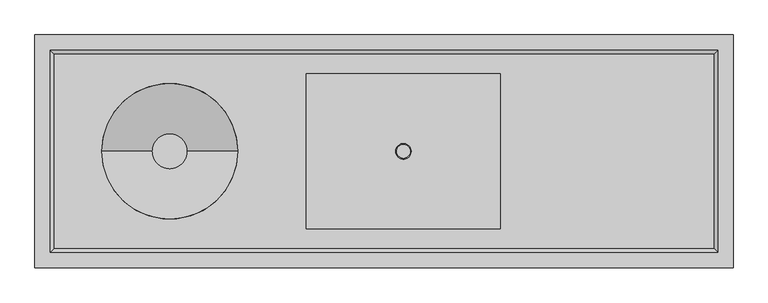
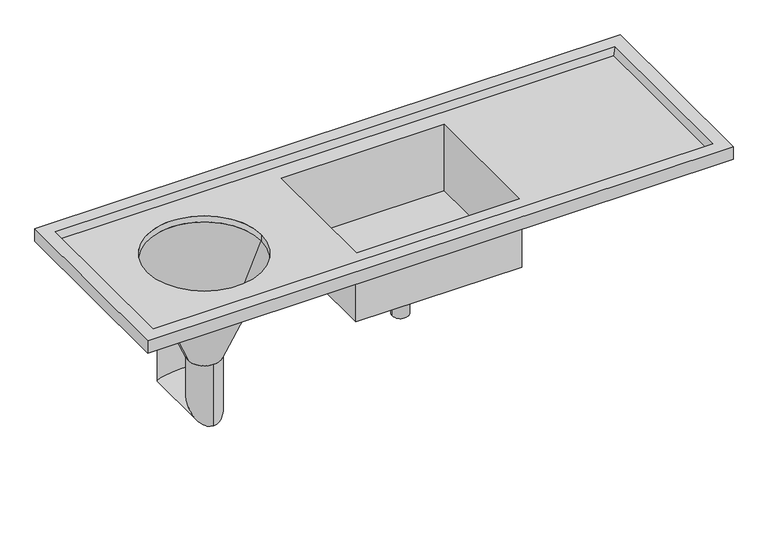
"""IFC4 building model written with IfcOpenShell, lengths in millimetres: flow terminal geometry, BIMHealth-Slop_Hopper-LOD2A-v1 : BIMHealth-Slop_Hopper-LOD2A-v1."""

from ifc_helpers import new_model, si_unit, frame, origin, place, context, project, spatial, polyline, circle_curve, ellipse_curve, source, transform, mapped, element, save
from ifc_brep_helpers import plane_surface, cylinder_surface, revolved_surface, advanced_brep


def flow_terminal_d119b02e(model_context):
    return source(origin(), model_context, "Body", "AdvancedBrep", [
        advanced_brep(
        [(167.5, -300.0, 860.0), (527.5, -300.0, 860.0), (522.5, -300.0, 860.0), (172.5, -300.0, 860.0), (297.5, -300.0, 550.0), (397.5, -300.0, 550.0), (302.5, -300.0, 555.0), (392.5, -300.0, 555.0)],
        [
            (0, 1, circle_curve(frame((347.5, -300.0, 860.0), z_axis=(0.0, 0.0, 1.0), x_axis=(-1.0, 0.0, 0.0)), 180.0)),
            (1, 0, circle_curve(frame((347.5, -300.0, 860.0), z_axis=(0.0, 0.0, 1.0), x_axis=(1.0, 0.0, 0.0)), 180.0)),
            (2, 3, circle_curve(frame((347.5, -300.0, 860.0), z_axis=(0.0, 0.0, -1.0), x_axis=(-1.0, 0.0, 0.0)), 175.0)),
            (3, 2, circle_curve(frame((347.5, -300.0, 860.0), z_axis=(0.0, 0.0, -1.0), x_axis=(1.0, 0.0, 0.0)), 175.0)),
            (4, 5, circle_curve(frame((347.5, -300.0, 550.0), z_axis=(0.0, 0.0, -1.0), x_axis=(1.0, 0.0, 0.0)), 50.0)),
            (5, 4, circle_curve(frame((347.5, -300.0, 550.0), z_axis=(0.0, 0.0, -1.0), x_axis=(-1.0, 0.0, 0.0)), 50.0)),
            (0, 4),
            (5, 1),
            (6, 7, circle_curve(frame((347.5, -300.0, 555.0), z_axis=(0.0, 0.0, 1.0), x_axis=(-1.0, 0.0, 0.0)), 45.0)),
            (7, 6, circle_curve(frame((347.5, -300.0, 555.0), z_axis=(0.0, 0.0, 1.0), x_axis=(1.0, 0.0, 0.0)), 45.0)),
            (6, 3),
            (2, 7),
        ],
        [
            plane_surface(frame((347.5, -300.0, 860.0), z_axis=(0.0, 0.0, 1.0), x_axis=(0.0, -1.0, 0.0))),
            plane_surface(frame((347.5, -300.0, 550.0), z_axis=(0.0, 0.0, -1.0), x_axis=(0.0, -1.0, 0.0))),
            revolved_surface(polyline([(397.499999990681, -300.0, 550.0), (527.5, -300.0, 860.0)]), (347.5, -300.0, 430.7692308), (0.0, 0.0, 1.0)),
            revolved_surface(polyline([(297.500000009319, -300.0, 550.0), (167.5, -300.0, 860.0)]), (347.5, -300.0, 430.7692308), (0.0, 0.0, 1.0)),
            plane_surface(frame((347.5, -300.0, 555.0), z_axis=(0.0, 0.0, 1.0), x_axis=(0.0, -1.0, 0.0))),
            revolved_surface(polyline([(172.5, -300.0, 860.0), (302.49999999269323, -300.0, 555.0)]), (347.5, -300.0, 449.4230769), (0.0, 0.0, 1.0)),
            revolved_surface(polyline([(522.5, -300.0, 860.0), (392.50000000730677, -300.0, 555.0)]), (347.5, -300.0, 449.4230769), (0.0, 0.0, 1.0)),
        ],
        [
            (0, [[1, 2], [3, 4]]),
            (1, [[5, 6]]),
            (2, [[-1, 7, -6, 8]]),
            (3, [[-2, -8, -5, -7]]),
            (4, [[9, 10]]),
            (5, [[-9, 11, -3, 12]]),
            (6, [[-10, -12, -4, -11]]),
        ],
    ),
        advanced_brep(
        [(925.0, -300.0, 585.0), (975.0, -300.0, 585.0), (970.0, -300.0, 585.0), (930.0, -300.0, 585.0), (967.5, -300.0, 585.0), (932.5, -300.0, 585.0), (927.5, -300.0, 582.5), (972.5, -300.0, 582.5), (925.0, -300.0, 582.5), (975.0, -300.0, 582.5), (925.0, -300.0, 475.0), (975.0, -300.0, 475.0), (927.5, -300.0, 475.0), (972.5, -300.0, 475.0), (930.0, -300.0, 660.0), (970.0, -300.0, 660.0), (932.5, -300.0, 660.0), (967.5, -300.0, 660.0)],
        [
            (0, 1, circle_curve(frame((950.0, -300.0, 585.0), z_axis=(0.0, 0.0, 1.0), x_axis=(1.0, 0.0, 0.0)), 25.0)),
            (1, 0, circle_curve(frame((950.0, -300.0, 585.0), z_axis=(0.0, 0.0, 1.0), x_axis=(1.0, 0.0, 0.0)), 25.0)),
            (2, 3, circle_curve(frame((950.0, -300.0, 585.0), z_axis=(0.0, 0.0, -1.0), x_axis=(1.0, 0.0, 0.0)), 20.0)),
            (3, 2, circle_curve(frame((950.0, -300.0, 585.0), z_axis=(0.0, 0.0, -1.0), x_axis=(1.0, 0.0, 0.0)), 20.0)),
            (4, 5, circle_curve(frame((950.0, -300.0, 585.0), z_axis=(0.0, 0.0, 1.0), x_axis=(1.0, 0.0, 0.0)), 17.5)),
            (5, 4, circle_curve(frame((950.0, -300.0, 585.0), z_axis=(0.0, 0.0, 1.0), x_axis=(1.0, 0.0, 0.0)), 17.5)),
            (6, 7, circle_curve(frame((950.0, -300.0, 582.5), z_axis=(0.0, 0.0, -1.0), x_axis=(1.0, 0.0, 0.0)), 22.5)),
            (7, 6, circle_curve(frame((950.0, -300.0, 582.5), z_axis=(0.0, 0.0, -1.0), x_axis=(1.0, 0.0, 0.0)), 22.5)),
            (0, 8),
            (8, 9, circle_curve(frame((950.0, -300.0, 582.5), z_axis=(0.0, 0.0, 1.0), x_axis=(1.0, 0.0, 0.0)), 25.0)),
            (9, 1),
            (9, 8, circle_curve(frame((950.0, -300.0, 582.5), z_axis=(0.0, 0.0, 1.0), x_axis=(1.0, 0.0, 0.0)), 25.0)),
            (10, 11, circle_curve(frame((950.0, -300.0, 475.0), z_axis=(0.0, 0.0, -1.0), x_axis=(1.0, 0.0, 0.0)), 25.0)),
            (11, 10, circle_curve(frame((950.0, -300.0, 475.0), z_axis=(0.0, 0.0, -1.0), x_axis=(1.0, 0.0, 0.0)), 25.0)),
            (12, 13, circle_curve(frame((950.0, -300.0, 475.0), z_axis=(0.0, 0.0, 1.0), x_axis=(1.0, 0.0, 0.0)), 22.5)),
            (13, 12, circle_curve(frame((950.0, -300.0, 475.0), z_axis=(0.0, 0.0, 1.0), x_axis=(1.0, 0.0, 0.0)), 22.5)),
            (11, 9),
            (8, 10),
            (13, 7),
            (6, 12),
            (14, 15, circle_curve(frame((950.0, -300.0, 660.0), z_axis=(0.0, 0.0, 1.0), x_axis=(1.0, 0.0, 0.0)), 20.0)),
            (15, 14, circle_curve(frame((950.0, -300.0, 660.0), z_axis=(0.0, 0.0, 1.0), x_axis=(1.0, 0.0, 0.0)), 20.0)),
            (16, 17, circle_curve(frame((950.0, -300.0, 660.0), z_axis=(0.0, 0.0, -1.0), x_axis=(1.0, 0.0, 0.0)), 17.5)),
            (17, 16, circle_curve(frame((950.0, -300.0, 660.0), z_axis=(0.0, 0.0, -1.0), x_axis=(1.0, 0.0, 0.0)), 17.5)),
            (14, 3),
            (2, 15),
            (16, 5),
            (4, 17),
        ],
        [
            plane_surface(frame((975.0, -300.0, 585.0), z_axis=(0.0, 0.0, 1.0), x_axis=(0.0, 1.0, 0.0))),
            plane_surface(frame((975.0, -300.0, 582.5), z_axis=(0.0, 0.0, -1.0), x_axis=(0.0, -1.0, 0.0))),
            cylinder_surface(frame((950.0, -300.0, 582.5), z_axis=(0.0, 0.0, 1.0), x_axis=(1.0, 0.0, 0.0)), 25.0),
            plane_surface(frame((975.0, -300.0, 475.0), z_axis=(0.0, 0.0, -1.0), x_axis=(0.0, -1.0, 0.0))),
            cylinder_surface(frame((950.0, -300.0, 475.0), z_axis=(0.0, 0.0, 1.0), x_axis=(1.0, 0.0, 0.0)), 25.0),
            revolved_surface(polyline([(972.5, -300.0, 475.0), (972.5, -300.0, 582.5)]), (950.0, -300.0, 0.0), (0.0, 0.0, -1.0)),
            plane_surface(frame((970.0, -300.0, 660.0), z_axis=(0.0, 0.0, 1.0), x_axis=(0.0, 1.0, 0.0))),
            cylinder_surface(frame((950.0, -300.0, 585.0), z_axis=(0.0, 0.0, 1.0), x_axis=(1.0, 0.0, 0.0)), 20.0),
            revolved_surface(polyline([(967.5, -300.0, 585.0), (967.5, -300.0, 660.0)]), (950.0, -300.0, 0.0), (0.0, 0.0, -1.0)),
        ],
        [
            (0, [[1, 2], [3, 4]]),
            (0, [[5, 6]]),
            (1, [[7, 8]]),
            (2, [[-1, 9, 10, 11]]),
            (2, [[-2, -11, 12, -9]]),
            (3, [[13, 14], [15, 16]]),
            (4, [[-14, 17, -10, 18]]),
            (4, [[-13, -18, -12, -17]]),
            (5, [[-16, 19, -7, 20]]),
            (5, [[-15, -20, -8, -19]]),
            (6, [[21, 22], [23, 24]]),
            (7, [[-21, 25, -3, 26]]),
            (7, [[-22, -26, -4, -25]]),
            (8, [[-23, 27, -5, 28]]),
            (8, [[-24, -28, -6, -27]]),
        ],
    ),
        advanced_brep(
        [(347.5, -350.0, 550.0), (347.5, -250.0, 550.0), (347.5, -350.0, 350.0), (347.5, -250.0, 450.0), (347.5, -100.0, 350.0), (347.5, -200.0, 450.0), (347.5, -100.0, 450.0), (347.5, -200.0, 550.0), (347.5, 0.0, 450.0), (347.5, 0.0, 550.0)],
        [
            (0, 1, circle_curve(frame((347.5, -300.0, 550.0), z_axis=(0.0, 0.0, 1.0), x_axis=(0.0, 1.0, 0.0)), 50.0)),
            (1, 0, circle_curve(frame((347.5, -300.0, 550.0), z_axis=(0.0, 0.0, 1.0), x_axis=(0.0, 1.0, 0.0)), 50.0)),
            (0, 2),
            (2, 3, ellipse_curve(frame((347.5, -300.0, 400.0), z_axis=(0.0, -0.7071067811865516, 0.7071067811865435), x_axis=(0.0, 0.7071067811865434, 0.7071067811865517)), 70.7106781, 50.0)),
            (3, 1),
            (3, 2, ellipse_curve(frame((347.5, -300.0, 400.0), z_axis=(0.0, -0.7071067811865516, 0.7071067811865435), x_axis=(0.0, 0.7071067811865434, 0.7071067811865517)), 70.7106781, 50.0)),
            (2, 4),
            (4, 5, ellipse_curve(frame((347.5, -150.0, 400.0), z_axis=(0.0, -0.7071067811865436, -0.7071067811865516), x_axis=(0.0, -0.7071067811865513, 0.7071067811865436)), 70.7106781, 50.0)),
            (5, 3),
            (5, 4, ellipse_curve(frame((347.5, -150.0, 400.0), z_axis=(0.0, -0.7071067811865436, -0.7071067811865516), x_axis=(0.0, -0.7071067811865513, 0.7071067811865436)), 70.7106781, 50.0)),
            (4, 6),
            (6, 7, ellipse_curve(frame((347.5, -150.0, 500.0), z_axis=(0.0, -0.7071067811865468, -0.7071067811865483), x_axis=(0.0, 0.7071067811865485, -0.7071067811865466)), 70.7106781, 50.0)),
            (7, 5),
            (7, 6, ellipse_curve(frame((347.5, -150.0, 500.0), z_axis=(0.0, -0.7071067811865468, -0.7071067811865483), x_axis=(0.0, 0.7071067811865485, -0.7071067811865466)), 70.7106781, 50.0)),
            (8, 9, circle_curve(frame((347.5, 0.0, 500.0), z_axis=(0.0, 1.0, 0.0), x_axis=(0.0, 0.0, 1.0)), 50.0)),
            (9, 8, circle_curve(frame((347.5, 0.0, 500.0), z_axis=(0.0, 1.0, 0.0), x_axis=(0.0, 0.0, 1.0)), 50.0)),
            (6, 8),
            (9, 7),
        ],
        [
            plane_surface(frame((347.5, -300.0, 550.0), z_axis=(0.0, 0.0, 1.0), x_axis=(1.0, 0.0, 0.0))),
            cylinder_surface(frame((347.5, -300.0, 550.0), z_axis=(0.0, 0.0, 1.0), x_axis=(0.0, 1.0, 0.0)), 50.0),
            cylinder_surface(frame((347.5, -300.0, 400.0), z_axis=(0.0, -1.0, 0.0), x_axis=(0.0, 0.0, 1.0)), 50.0),
            cylinder_surface(frame((347.5, -150.0, 400.0), z_axis=(0.0, 0.0, -1.0), x_axis=(0.0, -1.0, 0.0)), 50.0),
            plane_surface(frame((347.5, 0.0, 500.0), z_axis=(0.0, 1.0, 0.0), x_axis=(1.0, 0.0, 0.0))),
            cylinder_surface(frame((347.5, -150.0, 500.0), z_axis=(0.0, -1.0, 0.0), x_axis=(0.0, 0.0, 1.0)), 50.0),
        ],
        [
            (0, [[1, 2]]),
            (1, [[-1, 3, 4, 5]]),
            (1, [[-2, -5, 6, -3]]),
            (2, [[-4, 7, 8, 9]]),
            (2, [[-6, -9, 10, -7]]),
            (3, [[-8, 11, 12, 13]]),
            (3, [[-10, -13, 14, -11]]),
            (4, [[15, 16]]),
            (5, [[-12, 17, -16, 18]]),
            (5, [[-14, -18, -15, -17]]),
        ],
    ),
        advanced_brep(
        [(1800.0, 0.0, 900.0), (0.0, 0.0, 900.0), (0.0, -600.0, 900.0), (1800.0, -600.0, 900.0), (40.0, -40.0, 900.0), (1760.0, -40.0, 900.0), (1760.0, -560.0, 900.0), (40.0, -560.0, 900.0), (1800.0, 0.0, 860.0), (1800.0, -600.0, 860.0), (0.0, -600.0, 860.0), (0.0, 0.0, 860.0), (1205.0, -95.0, 860.0), (695.0, -95.0, 860.0), (695.0, -505.0, 860.0), (1205.0, -505.0, 860.0), (172.5, -300.0, 860.0), (522.5, -300.0, 860.0), (1750.0, -50.0, 880.0), (50.0, -50.0, 880.0), (50.0, -550.0, 880.0), (1750.0, -550.0, 880.0), (1200.0, -100.0, 880.0), (1200.0, -500.0, 880.0), (700.0, -500.0, 880.0), (700.0, -100.0, 880.0), (172.5, -300.0, 880.0), (522.5, -300.0, 880.0), (1200.0, -100.0, 665.0), (1200.0, -500.0, 665.0), (700.0, -500.0, 665.0), (700.0, -100.0, 665.0), (1205.0, -95.0, 660.0), (695.0, -95.0, 660.0), (695.0, -505.0, 660.0), (1205.0, -505.0, 660.0), (930.0, -300.0, 665.0), (970.0, -300.0, 665.0), (930.0, -300.0, 660.0), (970.0, -300.0, 660.0)],
        [
            (0, 1),
            (1, 2),
            (2, 3),
            (3, 0),
            (4, 5),
            (5, 6),
            (6, 7),
            (7, 4),
            (8, 9),
            (9, 10),
            (10, 11),
            (11, 8),
            (12, 13),
            (13, 14),
            (14, 15),
            (15, 12),
            (16, 17, circle_curve(frame((347.5, -300.0, 860.0), z_axis=(0.0, 0.0, 1.0), x_axis=(1.0, 0.0, 0.0)), 175.0)),
            (17, 16, circle_curve(frame((347.5, -300.0, 860.0), z_axis=(0.0, 0.0, 1.0), x_axis=(1.0, 0.0, 0.0)), 175.0)),
            (0, 8),
            (11, 1),
            (10, 2),
            (9, 3),
            (18, 19),
            (19, 20),
            (20, 21),
            (21, 18),
            (22, 23),
            (23, 24),
            (24, 25),
            (25, 22),
            (26, 27, circle_curve(frame((347.5, -300.0, 880.0), z_axis=(0.0, 0.0, -1.0), x_axis=(1.0, 0.0, 0.0)), 175.0)),
            (27, 26, circle_curve(frame((347.5, -300.0, 880.0), z_axis=(0.0, 0.0, -1.0), x_axis=(1.0, 0.0, 0.0)), 175.0)),
            (18, 5),
            (4, 19),
            (7, 20),
            (6, 21),
            (22, 28),
            (28, 29),
            (29, 23),
            (29, 30),
            (30, 24),
            (30, 31),
            (31, 25),
            (31, 28),
            (32, 33),
            (33, 13),
            (12, 32),
            (33, 34),
            (34, 14),
            (34, 35),
            (35, 15),
            (35, 32),
            (36, 37, circle_curve(frame((950.0, -300.0, 665.0), z_axis=(0.0, 0.0, -1.0), x_axis=(1.0, 0.0, 0.0)), 20.0)),
            (37, 36, circle_curve(frame((950.0, -300.0, 665.0), z_axis=(0.0, 0.0, -1.0), x_axis=(1.0, 0.0, 0.0)), 20.0)),
            (38, 39, circle_curve(frame((950.0, -300.0, 660.0), z_axis=(0.0, 0.0, 1.0), x_axis=(1.0, 0.0, 0.0)), 20.0)),
            (39, 38, circle_curve(frame((950.0, -300.0, 660.0), z_axis=(0.0, 0.0, 1.0), x_axis=(1.0, 0.0, 0.0)), 20.0)),
            (36, 38),
            (39, 37),
            (17, 27),
            (26, 16),
        ],
        [
            plane_surface(frame((0.0, 0.0, 900.0), z_axis=(0.0, 0.0, 1.0), x_axis=(-1.0, 0.0, 0.0))),
            plane_surface(frame((0.0, 0.0, 860.0), z_axis=(0.0, 0.0, -1.0), x_axis=(1.0, 0.0, 0.0))),
            plane_surface(frame((1800.0, 0.0, 900.0), z_axis=(0.0, 1.0, 0.0), x_axis=(0.0, 0.0, -1.0))),
            plane_surface(frame((0.0, 0.0, 900.0), z_axis=(-1.0, 0.0, 0.0), x_axis=(0.0, 0.0, -1.0))),
            plane_surface(frame((0.0, -600.0, 900.0), z_axis=(0.0, -1.0, 0.0), x_axis=(0.0, 0.0, -1.0))),
            plane_surface(frame((1800.0, -600.0, 900.0), z_axis=(1.0, 0.0, 0.0), x_axis=(0.0, 0.0, -1.0))),
            plane_surface(frame((900.0, -300.0, 880.0), z_axis=(0.0, 0.0, 1.0), x_axis=(-1.0, 0.0, 0.0))),
            plane_surface(frame((900.0, -50.0, 880.0), z_axis=(0.0, -0.8944271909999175, 0.4472135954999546), x_axis=(-1.0, 0.0, 0.0))),
            plane_surface(frame((50.0, -300.0, 880.0), z_axis=(0.8944271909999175, 0.0, 0.4472135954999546), x_axis=(0.0, -1.0, 0.0))),
            plane_surface(frame((900.0, -550.0, 880.0), z_axis=(0.0, 0.8944271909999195, 0.44721359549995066), x_axis=(1.0, 0.0, 0.0))),
            plane_surface(frame((1750.0, -300.0, 880.0), z_axis=(-0.8944271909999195, 0.0, 0.44721359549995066), x_axis=(0.0, 1.0, 0.0))),
            plane_surface(frame((1200.0, -100.0, 900.0), z_axis=(-1.0, 0.0, 0.0), x_axis=(0.0, 0.0, -1.0))),
            plane_surface(frame((1200.0, -500.0, 900.0), z_axis=(0.0, 1.0, 0.0), x_axis=(0.0, 0.0, -1.0))),
            plane_surface(frame((700.0, -500.0, 900.0), z_axis=(1.0, 0.0, 0.0), x_axis=(0.0, 0.0, -1.0))),
            plane_surface(frame((700.0, -100.0, 900.0), z_axis=(0.0, -1.0, 0.0), x_axis=(0.0, 0.0, -1.0))),
            plane_surface(frame((1205.0, -95.0, 860.0), z_axis=(0.0, 1.0, 0.0), x_axis=(0.0, 0.0, -1.0))),
            plane_surface(frame((695.0, -95.0, 860.0), z_axis=(-1.0, 0.0, 0.0), x_axis=(0.0, 0.0, -1.0))),
            plane_surface(frame((695.0, -505.0, 860.0), z_axis=(0.0, -1.0, 0.0), x_axis=(0.0, 0.0, -1.0))),
            plane_surface(frame((1205.0, -505.0, 860.0), z_axis=(1.0, 0.0, 0.0), x_axis=(0.0, 0.0, -1.0))),
            plane_surface(frame((695.0, -95.0, 665.0), z_axis=(0.0, 0.0, 1.0), x_axis=(-1.0, 0.0, 0.0))),
            plane_surface(frame((695.0, -95.0, 660.0), z_axis=(0.0, 0.0, -1.0), x_axis=(1.0, 0.0, 0.0))),
            revolved_surface(polyline([(970.0, -300.0, 660.0), (970.0, -300.0, 665.0)]), (950.0, -300.0, 0.0), (0.0, 0.0, -1.0)),
            revolved_surface(polyline([(522.5, -300.0, 860.0), (522.5, -300.0, 880.0)]), (347.5, -300.0, 0.0), (0.0, 0.0, -1.0)),
        ],
        [
            (0, [[1, 2, 3, 4], [5, 6, 7, 8]]),
            (1, [[9, 10, 11, 12], [13, 14, 15, 16], [17, 18]]),
            (2, [[-1, 19, -12, 20]]),
            (3, [[-2, -20, -11, 21]]),
            (4, [[-3, -21, -10, 22]]),
            (5, [[-4, -22, -9, -19]]),
            (6, [[23, 24, 25, 26], [27, 28, 29, 30], [31, 32]]),
            (7, [[-23, 33, -5, 34]]),
            (8, [[-24, -34, -8, 35]]),
            (9, [[-25, -35, -7, 36]]),
            (10, [[-26, -36, -6, -33]]),
            (11, [[-27, 37, 38, 39]]),
            (12, [[-28, -39, 40, 41]]),
            (13, [[-29, -41, 42, 43]]),
            (14, [[-30, -43, 44, -37]]),
            (15, [[45, 46, -13, 47]]),
            (16, [[-46, 48, 49, -14]]),
            (17, [[-49, 50, 51, -15]]),
            (18, [[-47, -16, -51, 52]]),
            (19, [[-38, -44, -42, -40], [53, 54]]),
            (20, [[-52, -50, -48, -45], [55, 56]]),
            (21, [[-53, 57, -56, 58]]),
            (21, [[-54, -58, -55, -57]]),
            (22, [[-18, 59, -31, 60]]),
            (22, [[-17, -60, -32, -59]]),
        ],
    ),
    ])


if __name__ == "__main__":
    model = new_model("IFC4")
    model_context = context("Model", 3, world=origin())
    ifc_project = project(units=[si_unit("LENGTHUNIT", "METRE", prefix="MILLI")], contexts=[model_context])
    site = spatial("IfcSite", under=ifc_project)
    building = spatial("IfcBuilding", under=site)
    placement = place(None, origin())
    flow_terminal_shape = flow_terminal_d119b02e(model_context)
    element("IfcFlowTerminal", 1, ObjectType="BIMHealth-Slop_Hopper-LOD2A-v1 : BIMHealth-Slop_Hopper-LOD2A-v1", at=placement, inside=building, context=model_context, shape_type="MappedRepresentation", body=[
        mapped(flow_terminal_shape, transform((0.0, 0.0, 0.0), x_axis=(1.0, 0.0, 0.0), y_axis=(0.0, 1.0, 0.0), z_axis=(0.0, 0.0, 1.0))),
    ])
    save(model, "model.ifc")
